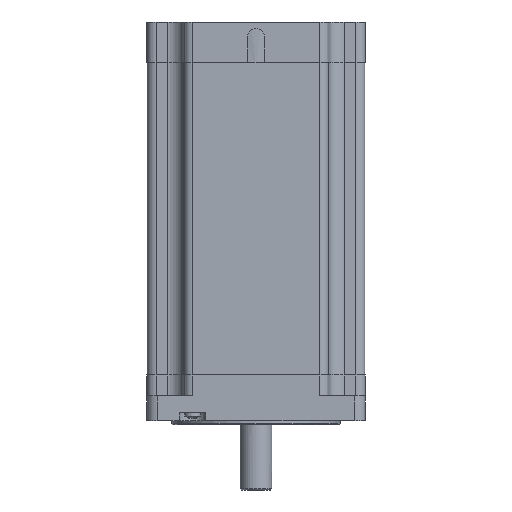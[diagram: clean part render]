
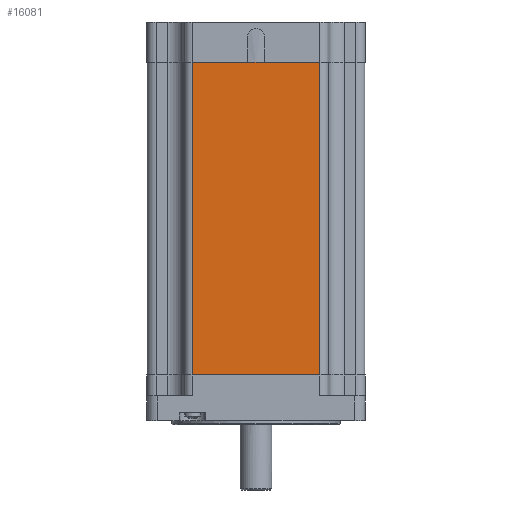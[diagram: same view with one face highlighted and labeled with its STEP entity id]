
A CAD part, left-side view. The second image highlights one B-rep face of the part: STEP entity #16081.
In plain terms, the highlighted planar face has unit normal (-1, 0, 0).
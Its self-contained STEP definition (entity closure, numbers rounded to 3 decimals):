
#1440 = VECTOR ( 'NONE', #7248, 1000. ) ;
#3094 = DIRECTION ( 'NONE',  ( 0., -1., 0. ) ) ;
#4076 = CARTESIAN_POINT ( 'NONE',  ( -54.87, 32.02, 0. ) ) ;
#4270 = AXIS2_PLACEMENT_3D ( 'NONE', #43181, #39534, #26885 ) ;
#5887 = VECTOR ( 'NONE', #33285, 1000. ) ;
#6712 = VERTEX_POINT ( 'NONE', #53277 ) ;
#7248 = DIRECTION ( 'NONE',  ( 0., 0., -1. ) ) ;
#7338 = CARTESIAN_POINT ( 'NONE',  ( -54.87, 32.02, 157.6 ) ) ;
#7348 = VERTEX_POINT ( 'NONE', #12928 ) ;
#12928 = CARTESIAN_POINT ( 'NONE',  ( -54.87, 32.02, 0. ) ) ;
#13069 = LINE ( 'NONE', #4076, #5887 ) ;
#14860 = VERTEX_POINT ( 'NONE', #51215 ) ;
#15566 = ORIENTED_EDGE ( 'NONE', *, *, #22721, .T. ) ;
#16081 = ADVANCED_FACE ( 'NONE', ( #39681 ), #47770, .T. ) ;
#17138 = LINE ( 'NONE', #24154, #1440 ) ;
#18470 = VECTOR ( 'NONE', #46382, 1000. ) ;
#19116 = LINE ( 'NONE', #7338, #29568 ) ;
#22105 = ORIENTED_EDGE ( 'NONE', *, *, #38667, .F. ) ;
#22721 = EDGE_CURVE ( 'NONE', #7348, #30005, #32844, .T. ) ;
#23509 = ORIENTED_EDGE ( 'NONE', *, *, #48391, .T. ) ;
#24154 = CARTESIAN_POINT ( 'NONE',  ( -54.87, -32.02, 246.485 ) ) ;
#26885 = DIRECTION ( 'NONE',  ( 0., 0., 1. ) ) ;
#29568 = VECTOR ( 'NONE', #3094, 1000. ) ;
#30005 = VERTEX_POINT ( 'NONE', #37789 ) ;
#32844 = LINE ( 'NONE', #34629, #18470 ) ;
#32900 = ORIENTED_EDGE ( 'NONE', *, *, #38363, .F. ) ;
#33285 = DIRECTION ( 'NONE',  ( 0., 0., -1. ) ) ;
#34629 = CARTESIAN_POINT ( 'NONE',  ( -54.87, 0., 0. ) ) ;
#37789 = CARTESIAN_POINT ( 'NONE',  ( -54.87, -32.02, 0. ) ) ;
#38363 = EDGE_CURVE ( 'NONE', #14860, #6712, #19116, .T. ) ;
#38667 = EDGE_CURVE ( 'NONE', #6712, #30005, #17138, .T. ) ;
#39534 = DIRECTION ( 'NONE',  ( -1., 0., 0. ) ) ;
#39681 = FACE_OUTER_BOUND ( 'NONE', #54209, .T. ) ;
#43181 = CARTESIAN_POINT ( 'NONE',  ( -54.87, 36.52, 0. ) ) ;
#46382 = DIRECTION ( 'NONE',  ( 0., -1., 0. ) ) ;
#47770 = PLANE ( 'NONE',  #4270 ) ;
#48391 = EDGE_CURVE ( 'NONE', #14860, #7348, #13069, .T. ) ;
#51215 = CARTESIAN_POINT ( 'NONE',  ( -54.87, 32.02, 157.6 ) ) ;
#53277 = CARTESIAN_POINT ( 'NONE',  ( -54.87, -32.02, 157.6 ) ) ;
#54209 = EDGE_LOOP ( 'NONE', ( #15566, #22105, #32900, #23509 ) ) ;
